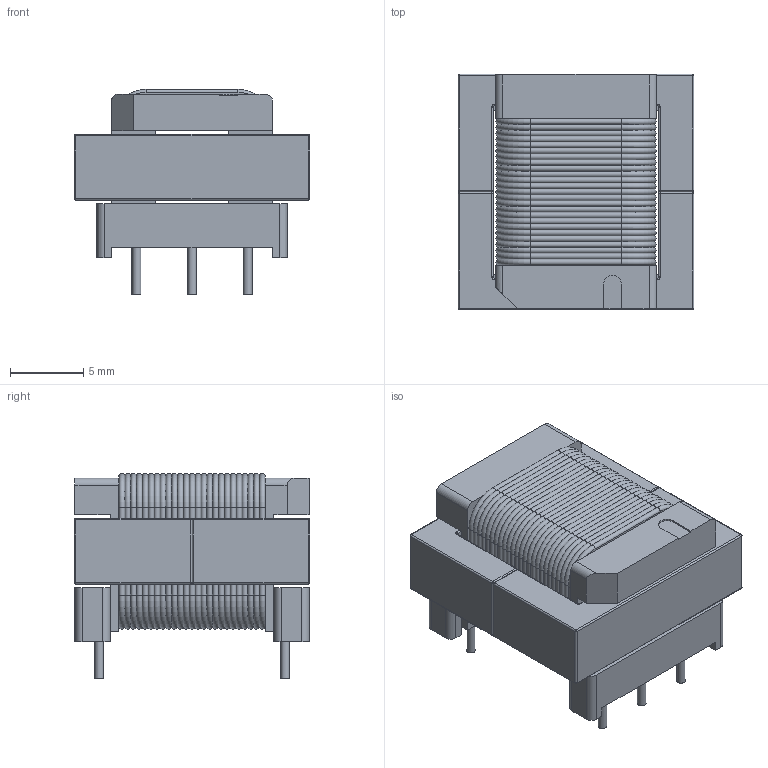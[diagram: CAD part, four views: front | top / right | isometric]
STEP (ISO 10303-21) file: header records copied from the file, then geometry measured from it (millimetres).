
FILE_DESCRIPTION(('FreeCAD Model'),'2;1');
FILE_NAME('Open CASCADE Shape Model','2025-11-13T11:32:46',(''),(''), 'Open CASCADE STEP processor 7.8','FreeCAD','Unknown');
FILE_SCHEMA(('AUTOMOTIVE_DESIGN { 1 0 10303 214 1 1 1 1 }'));
Length unit declared in the file: millimetre
Products named in the file (11): EF16_K_H_6P_SS_P_1619_; Bobbin; Pin001; Pin002; Pin003; Pin004; Pin005; Pin006; Windings; Winding; Core
Assembly tree (34 placements, depth 3):
  EF16_K_H_6P_SS_P_1619_
    Bobbin
    Pin001
    Pin002
    Pin003
    Pin004
    Pin005
    Pin006
    Windings
      Winding  x25
    Core
Bounding box: 16.1 x 16.1 x 14.02 mm (x, y, z)
Volume: 2039.4 mm3; surface area: 6142.3 mm2
Topology: 33 solids, 33 shells, 699 faces, 1781 edges, 1116 vertices
Faces by surface type: cylinder 301, torus 216, plane 150, sphere 32
Full cylindrical faces by diameter (mm): 0.6 x12
Entity records: 7778 total; most frequent: DIRECTION 1451, CARTESIAN_POINT 1247, ORIENTED_EDGE 1194, EDGE_CURVE 597, AXIS2_PLACEMENT_3D 552, VERTEX_POINT 348, LINE 347, VECTOR 347
